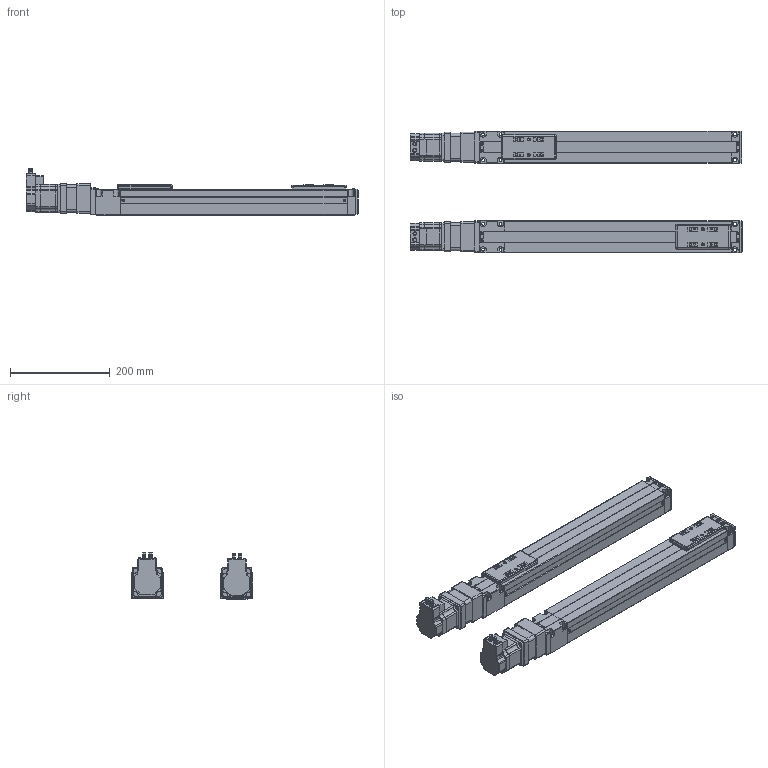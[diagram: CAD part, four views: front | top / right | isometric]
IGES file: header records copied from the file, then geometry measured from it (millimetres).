
Start section: IMSI TurboCAD v14.0
Global section: author: NULL; organization: NULL; date: 20100725.170357; units: millimetre
Bounding box: 667 x 244 x 93 mm (x, y, z)
Surface area: 747227.6 mm2 (no closed solid volume)
Topology: 0 solids, 0 shells, 3168 faces, 17782 edges, 17770 vertices
Faces by surface type: extrusion 2694, revolution 408, bspline 66
